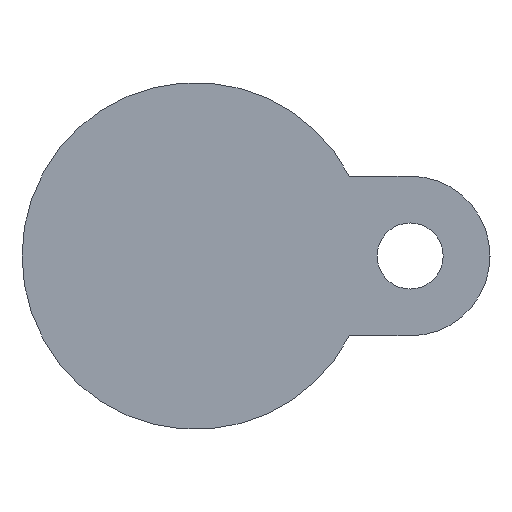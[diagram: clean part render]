
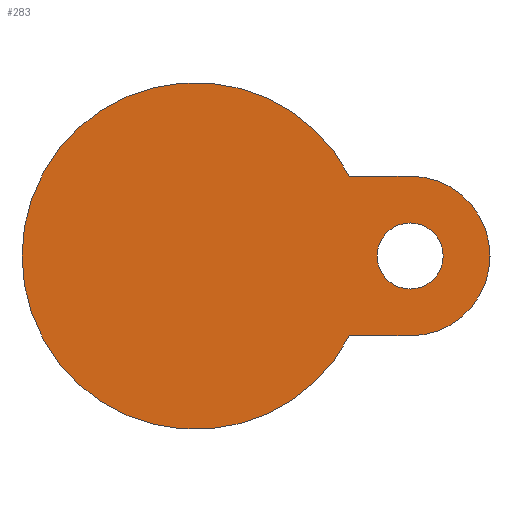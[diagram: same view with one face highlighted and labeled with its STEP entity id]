
A CAD part, front view. The second image highlights one B-rep face of the part: STEP entity #283.
In plain terms, the highlighted planar face has unit normal (0, -1, 0).
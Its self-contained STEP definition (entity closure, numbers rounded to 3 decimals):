
#1 = ORIENTED_EDGE ( 'NONE', *, *, #3338, .T. ) ;
#66 = ORIENTED_EDGE ( 'NONE', *, *, #1414, .T. ) ;
#230 = DIRECTION ( 'NONE',  ( 0., 1., 0. ) ) ;
#283 = ADVANCED_FACE ( 'NONE', ( #4818, #2728 ), #4279, .T. ) ;
#317 = DIRECTION ( 'NONE',  ( 0., -1., 0. ) ) ;
#347 = CIRCLE ( 'NONE', #1326, 14.5 ) ;
#434 = DIRECTION ( 'NONE',  ( -1., 0., 0. ) ) ;
#611 = AXIS2_PLACEMENT_3D ( 'NONE', #2957, #317, #3288 ) ;
#612 = DIRECTION ( 'NONE',  ( 0., -1., 0. ) ) ;
#666 = VERTEX_POINT ( 'NONE', #1758 ) ;
#705 = EDGE_CURVE ( 'NONE', #865, #4737, #2077, .T. ) ;
#708 = AXIS2_PLACEMENT_3D ( 'NONE', #5450, #1667, #3361 ) ;
#834 = ORIENTED_EDGE ( 'NONE', *, *, #4773, .F. ) ;
#865 = VERTEX_POINT ( 'NONE', #3284 ) ;
#977 = CARTESIAN_POINT ( 'NONE',  ( 39., -15., 0. ) ) ;
#991 = EDGE_LOOP ( 'NONE', ( #2611, #1304 ) ) ;
#995 = DIRECTION ( 'NONE',  ( 1., 0., 0. ) ) ;
#1010 = VECTOR ( 'NONE', #995, 1000. ) ;
#1087 = CARTESIAN_POINT ( 'NONE',  ( 0., -15., 0. ) ) ;
#1102 = AXIS2_PLACEMENT_3D ( 'NONE', #1087, #612, #3638 ) ;
#1148 = CIRCLE ( 'NONE', #611, 14.5 ) ;
#1240 = EDGE_LOOP ( 'NONE', ( #3513, #2445, #3088, #66, #1, #834 ) ) ;
#1264 = CARTESIAN_POINT ( 'NONE',  ( 53.5, -15., 0. ) ) ;
#1285 = AXIS2_PLACEMENT_3D ( 'NONE', #5469, #4641, #434 ) ;
#1304 = ORIENTED_EDGE ( 'NONE', *, *, #1314, .F. ) ;
#1314 = EDGE_CURVE ( 'NONE', #4737, #865, #2843, .T. ) ;
#1326 = AXIS2_PLACEMENT_3D ( 'NONE', #3495, #2246, #3684 ) ;
#1414 = EDGE_CURVE ( 'NONE', #4753, #666, #1148, .T. ) ;
#1524 = VERTEX_POINT ( 'NONE', #3833 ) ;
#1645 = CARTESIAN_POINT ( 'NONE',  ( 39., -15., -14.5 ) ) ;
#1667 = DIRECTION ( 'NONE',  ( 0., -1., 0. ) ) ;
#1675 = EDGE_CURVE ( 'NONE', #5137, #4481, #4505, .T. ) ;
#1758 = CARTESIAN_POINT ( 'NONE',  ( 39., -15., 14.5 ) ) ;
#1911 = AXIS2_PLACEMENT_3D ( 'NONE', #977, #5241, #2648 ) ;
#1927 = EDGE_CURVE ( 'NONE', #4507, #4753, #347, .T. ) ;
#2077 = CIRCLE ( 'NONE', #1911, 6. ) ;
#2246 = DIRECTION ( 'NONE',  ( 0., -1., 0. ) ) ;
#2370 = DIRECTION ( 'NONE',  ( -1., 0., 0. ) ) ;
#2445 = ORIENTED_EDGE ( 'NONE', *, *, #3859, .T. ) ;
#2611 = ORIENTED_EDGE ( 'NONE', *, *, #705, .F. ) ;
#2648 = DIRECTION ( 'NONE',  ( 1., 0., 0. ) ) ;
#2697 = VECTOR ( 'NONE', #2370, 1000. ) ;
#2700 = CARTESIAN_POINT ( 'NONE',  ( 0., -15., 0. ) ) ;
#2728 = FACE_BOUND ( 'NONE', #991, .T. ) ;
#2843 = CIRCLE ( 'NONE', #708, 6. ) ;
#2957 = CARTESIAN_POINT ( 'NONE',  ( 39., -15., 0. ) ) ;
#3088 = ORIENTED_EDGE ( 'NONE', *, *, #1927, .T. ) ;
#3114 = LINE ( 'NONE', #3142, #2697 ) ;
#3142 = CARTESIAN_POINT ( 'NONE',  ( 16.055, -15., 14.5 ) ) ;
#3200 = LINE ( 'NONE', #3553, #1010 ) ;
#3230 = CARTESIAN_POINT ( 'NONE',  ( -31.5, -15., 0. ) ) ;
#3284 = CARTESIAN_POINT ( 'NONE',  ( 45., -15., 0. ) ) ;
#3288 = DIRECTION ( 'NONE',  ( 1., 0., 0. ) ) ;
#3338 = EDGE_CURVE ( 'NONE', #666, #1524, #3114, .T. ) ;
#3361 = DIRECTION ( 'NONE',  ( 1., 0., 0. ) ) ;
#3495 = CARTESIAN_POINT ( 'NONE',  ( 39., -15., 0. ) ) ;
#3513 = ORIENTED_EDGE ( 'NONE', *, *, #1675, .F. ) ;
#3553 = CARTESIAN_POINT ( 'NONE',  ( 39., -15., -14.5 ) ) ;
#3612 = DIRECTION ( 'NONE',  ( -1., 0., 0. ) ) ;
#3638 = DIRECTION ( 'NONE',  ( 1., 0., 0. ) ) ;
#3684 = DIRECTION ( 'NONE',  ( 1., 0., 0. ) ) ;
#3833 = CARTESIAN_POINT ( 'NONE',  ( 27.964, -15., 14.5 ) ) ;
#3859 = EDGE_CURVE ( 'NONE', #5137, #4507, #3200, .T. ) ;
#4121 = CARTESIAN_POINT ( 'NONE',  ( 33., -15., 0. ) ) ;
#4279 = PLANE ( 'NONE',  #1102 ) ;
#4481 = VERTEX_POINT ( 'NONE', #3230 ) ;
#4505 = CIRCLE ( 'NONE', #5123, 31.5 ) ;
#4507 = VERTEX_POINT ( 'NONE', #1645 ) ;
#4641 = DIRECTION ( 'NONE',  ( 0., 1., 0. ) ) ;
#4737 = VERTEX_POINT ( 'NONE', #4121 ) ;
#4753 = VERTEX_POINT ( 'NONE', #1264 ) ;
#4773 = EDGE_CURVE ( 'NONE', #4481, #1524, #5088, .T. ) ;
#4818 = FACE_OUTER_BOUND ( 'NONE', #1240, .T. ) ;
#5053 = CARTESIAN_POINT ( 'NONE',  ( 27.964, -15., -14.5 ) ) ;
#5088 = CIRCLE ( 'NONE', #1285, 31.5 ) ;
#5123 = AXIS2_PLACEMENT_3D ( 'NONE', #2700, #230, #3612 ) ;
#5137 = VERTEX_POINT ( 'NONE', #5053 ) ;
#5241 = DIRECTION ( 'NONE',  ( 0., -1., 0. ) ) ;
#5450 = CARTESIAN_POINT ( 'NONE',  ( 39., -15., 0. ) ) ;
#5469 = CARTESIAN_POINT ( 'NONE',  ( 0., -15., 0. ) ) ;
